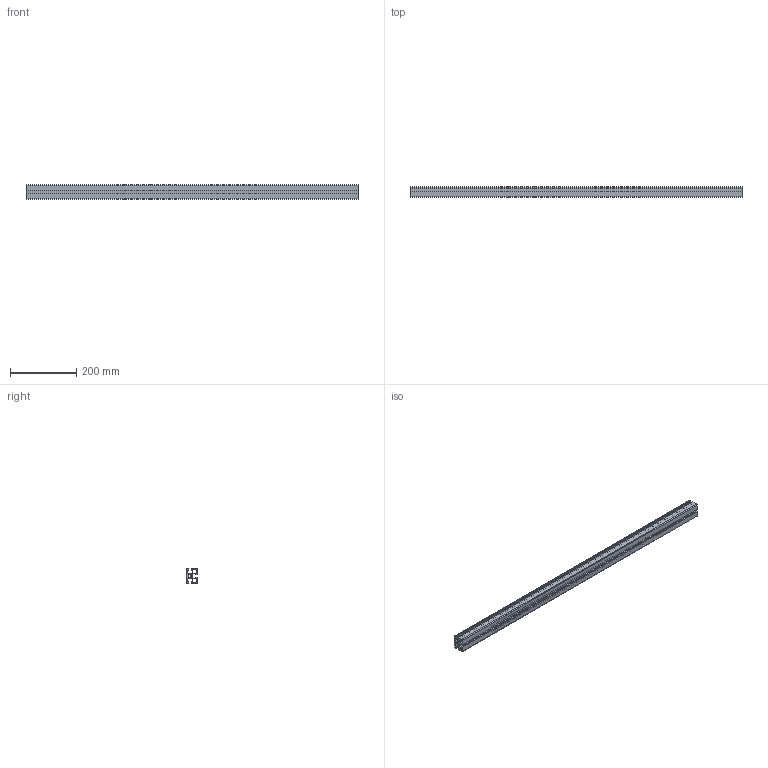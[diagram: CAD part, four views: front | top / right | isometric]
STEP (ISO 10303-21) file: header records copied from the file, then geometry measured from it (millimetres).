
FILE_DESCRIPTION (( 'STEP AP214' ), '1' );
FILE_NAME ('1.0145 45X32 L 6m musta 1000mm.STEP', '2026-03-13T13:48:52', ( '' ), ( '' ), 'SwSTEP 2.0', 'SolidWorks 2025', '' );
FILE_SCHEMA (( 'AUTOMOTIVE_DESIGN' ));
Length unit declared in the file: millimetre
Products named in the file (1): 1.0145 45X32 L 6m musta 1000mm
Bounding box: 1000 x 32 x 45 mm (x, y, z)
Volume: 565603.8 mm3; surface area: 392590.8 mm2
Topology: 1 solids, 1 shells, 111 faces, 327 edges, 218 vertices
Faces by surface type: plane 56, cylinder 55
Entity records: 3766 total; most frequent: DIRECTION 661, CARTESIAN_POINT 657, ORIENTED_EDGE 654, EDGE_CURVE 327, AXIS2_PLACEMENT_3D 222, VERTEX_POINT 218, VECTOR 217, LINE 217
